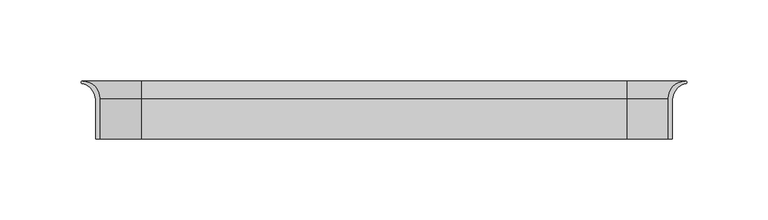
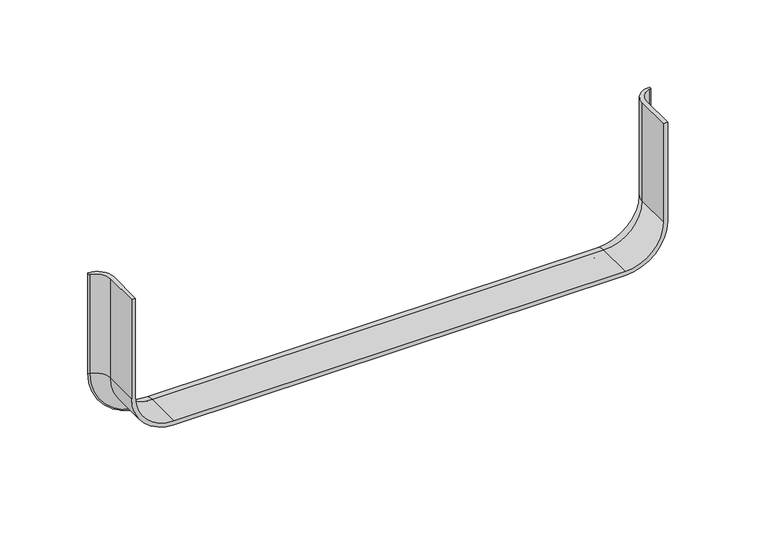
"""IFC4 building model written with IfcOpenShell, lengths in millimetres: cable carrier fitting geometry, CCT_Hyperline_FBTR-TSP Раструб для оптического лотка : Раструб для оптического лотка."""

from ifc_helpers import new_model, si_unit, point, frame, origin, place, context, project, spatial, polyline, circle_curve, ellipse_curve, trimmed, source, transform, mapped, element, save
from ifc_brep_helpers import plane_surface, cylinder_surface, revolved_surface, advanced_brep


def cable_carrier_fitting_6c60c4c2(model_context):
    return source(origin(), model_context, "Body", "AdvancedBrep", [
        advanced_brep(
        [(-177.46, 4.416055, 50.0), (-177.46, -19.5, 50.0), (-174.8920157, -19.5, 50.0), (-174.8920157, 5.5, 50.0), (-185.4986174, 16.1066017, 50.0), (-185.4986174, 14.6066017, 50.0), (-177.46, 4.416055, -19.46), (-177.46, -19.5, -19.46), (-149.46, -19.5, -47.46), (149.46, -19.5, -47.46), (177.46, -19.5, -19.46), (177.46, -19.5, 50.0), (174.8920157, -19.5, 50.0), (174.8920157, -19.5, -19.46), (149.46, -19.5, -44.8920157), (-149.46, -19.5, -44.8920157), (-174.8920157, -19.5, -19.46), (-149.46, 4.416055, -47.46), (149.46, 4.416055, -47.46), (177.46, 4.416055, -19.46), (177.46, 4.416055, 50.0), (185.4986174, 14.6066017, 50.0), (185.4986174, 16.1066017, 50.0), (174.8920157, 5.5, 50.0), (-174.8920157, 5.5, -19.46), (-185.4986174, 16.1066017, -19.46), (-185.4986174, 14.6066017, -19.46), (-149.46, 16.1066017, -55.4986174), (-149.46, 5.5, -44.8920157), (-149.46, 14.6066017, -55.4986174), (149.46, 5.5, -44.8920157), (149.46, 16.1066017, -55.4986174), (149.46, 14.6066017, -55.4986174), (185.4986174, 16.1066017, -19.46), (174.8920157, 5.5, -19.46), (185.4986174, 14.6066017, -19.46)],
        [
            (0, 1),
            (1, 2),
            (2, 3),
            (3, 4, circle_curve(frame((-185.4986174, 5.5, 50.0), z_axis=(0.0, 0.0, 1.0), x_axis=(0.0, -1.0, 0.0)), 10.6066017)),
            (4, 5, circle_curve(frame((-185.4986174, 15.3566017, 50.0), z_axis=(0.0, 0.0, 1.0), x_axis=(0.0, -1.0, 0.0)), 0.75)),
            (5, 0, circle_curve(frame((-187.9385814, 4.416055, 50.0), z_axis=(0.0, 0.0, -1.0), x_axis=(0.0, -1.0, 0.0)), 10.4785814)),
            (0, 6),
            (6, 7),
            (7, 1),
            (7, 8, circle_curve(frame((-149.46, -19.5, -19.46), z_axis=(0.0, -1.0, 0.0), x_axis=(-1.0, 0.0, 0.0)), 28.0)),
            (8, 9),
            (9, 10, circle_curve(frame((149.46, -19.5, -19.46), z_axis=(0.0, -1.0, 0.0), x_axis=(0.0, 0.0, -1.0)), 28.0)),
            (10, 11),
            (11, 12),
            (12, 13),
            (13, 14, circle_curve(frame((149.46, -19.5, -19.46), z_axis=(0.0, 1.0, 0.0), x_axis=(0.0, 0.0, -1.0)), 25.4320156)),
            (14, 15),
            (15, 16, circle_curve(frame((-149.46, -19.5, -19.46), z_axis=(0.0, 1.0, 0.0), x_axis=(-1.0, 0.0, 0.0)), 25.4320156)),
            (16, 2),
            (6, 17, circle_curve(frame((-149.46, 4.416055, -19.46), z_axis=(0.0, -1.0, 0.0), x_axis=(-1.0, 0.0, 0.0)), 28.0)),
            (17, 8),
            (17, 18),
            (18, 9),
            (18, 19, circle_curve(frame((149.46, 4.416055, -19.46), z_axis=(0.0, -1.0, 0.0), x_axis=(0.0, 0.0, -1.0)), 28.0)),
            (19, 10),
            (20, 21, circle_curve(frame((187.9385814, 4.416055, 50.0), z_axis=(0.0, 0.0, -1.0), x_axis=(0.0, -1.0, 0.0)), 10.4785814)),
            (21, 22, circle_curve(frame((185.4986174, 15.3566017, 50.0), z_axis=(0.0, 0.0, 1.0), x_axis=(0.0, -1.0, 0.0)), 0.75)),
            (22, 23, circle_curve(frame((185.4986174, 5.5, 50.0), z_axis=(0.0, 0.0, 1.0), x_axis=(0.0, -1.0, 0.0)), 10.6066017)),
            (23, 12),
            (11, 20),
            (19, 20),
            (3, 24),
            (24, 25, circle_curve(frame((-185.4986174, 5.5, -19.46), z_axis=(0.0, 0.0, 1.0), x_axis=(0.0, -1.0, 0.0)), 10.6066017)),
            (25, 4),
            (25, 26, circle_curve(frame((-185.4986174, 15.3566017, -19.46), z_axis=(0.0, 0.0, 1.0), x_axis=(0.0, -1.0, 0.0)), 0.75)),
            (26, 5),
            (26, 6, circle_curve(frame((-187.9385814, 4.416055, -19.46), z_axis=(0.0, 0.0, -1.0), x_axis=(0.0, -1.0, 0.0)), 10.4785814)),
            (27, 25, circle_curve(frame((-149.46, 16.1066017, -19.46), z_axis=(0.0, 1.0, 0.0), x_axis=(-1.0, 0.0, 0.0)), 36.0386174)),
            (24, 28, circle_curve(frame((-149.46, 5.5, -19.46), z_axis=(0.0, -1.0, 0.0), x_axis=(-1.0, 0.0, 0.0)), 25.4320156)),
            (28, 27, circle_curve(frame((-149.46, 5.5, -55.4986174), z_axis=(-1.0, 0.0, 0.0), x_axis=(0.0, -1.0, 0.0)), 10.6066017)),
            (29, 26, circle_curve(frame((-149.46, 14.6066017, -19.46), z_axis=(0.0, 1.0, 0.0), x_axis=(-1.0, 0.0, 0.0)), 36.0386174)),
            (27, 29, circle_curve(frame((-149.46, 15.3566017, -55.4986174), z_axis=(-1.0, 0.0, 0.0), x_axis=(0.0, -1.0, 0.0)), 0.75)),
            (29, 17, circle_curve(frame((-149.46, 4.416055, -57.9385814), z_axis=(1.0, 0.0, 0.0), x_axis=(0.0, -1.0, 0.0)), 10.4785814)),
            (28, 30),
            (30, 31, circle_curve(frame((149.46, 5.5, -55.4986174), z_axis=(-1.0, 0.0, 0.0), x_axis=(0.0, -1.0, 0.0)), 10.6066017)),
            (31, 27),
            (31, 32, circle_curve(frame((149.46, 15.3566017, -55.4986174), z_axis=(-1.0, 0.0, 0.0), x_axis=(0.0, -1.0, 0.0)), 0.75)),
            (32, 29),
            (32, 18, circle_curve(frame((149.46, 4.416055, -57.9385814), z_axis=(1.0, 0.0, 0.0), x_axis=(0.0, -1.0, 0.0)), 10.4785814)),
            (33, 31, circle_curve(frame((149.46, 16.1066017, -19.46), z_axis=(0.0, 1.0, 0.0), x_axis=(0.0, 0.0, -1.0)), 36.0386174)),
            (30, 34, circle_curve(frame((149.46, 5.5, -19.46), z_axis=(0.0, -1.0, 0.0), x_axis=(0.0, 0.0, -1.0)), 25.4320156)),
            (34, 33, circle_curve(frame((185.4986174, 5.5, -19.46), z_axis=(0.0, 0.0, -1.0), x_axis=(0.0, -1.0, 0.0)), 10.6066017)),
            (35, 32, circle_curve(frame((149.46, 14.6066017, -19.46), z_axis=(0.0, 1.0, 0.0), x_axis=(0.0, 0.0, -1.0)), 36.0386174)),
            (33, 35, circle_curve(frame((185.4986174, 15.3566017, -19.46), z_axis=(0.0, 0.0, -1.0), x_axis=(0.0, -1.0, 0.0)), 0.75)),
            (35, 19, circle_curve(frame((187.9385814, 4.416055, -19.46), z_axis=(0.0, 0.0, 1.0), x_axis=(0.0, -1.0, 0.0)), 10.4785814)),
            (34, 23),
            (22, 33),
            (21, 35),
            (16, 24),
            (15, 28),
            (14, 30),
            (13, 34),
        ],
        [
            plane_surface(frame((-177.46, 0.5, 50.0), z_axis=(0.0, 0.0, 1.0), x_axis=(0.0, -1.0, 0.0))),
            plane_surface(frame((-177.46, 4.416055, 50.0), z_axis=(-1.0, 0.0, 0.0), x_axis=(0.0, 0.0, -1.0))),
            plane_surface(frame((-177.46, -19.5, 50.0), z_axis=(0.0, -1.0, 0.0), x_axis=(0.0, 0.0, -1.0))),
            cylinder_surface(frame((-149.46, 0.5, -19.46), z_axis=(0.0, -1.0, 0.0), x_axis=(-1.0, 0.0, 0.0)), 28.0),
            plane_surface(frame((-149.46, 4.416055, -47.46), z_axis=(0.0, 0.0, -1.0), x_axis=(1.0, 0.0, 0.0))),
            cylinder_surface(frame((149.46, 0.5, -19.46), z_axis=(0.0, -1.0, 0.0), x_axis=(0.0, 0.0, -1.0)), 28.0),
            plane_surface(frame((177.46, 0.5, 50.0), z_axis=(0.0, 0.0, 1.0), x_axis=(0.0, -1.0, 0.0))),
            plane_surface(frame((177.46, 4.416055, -19.46), z_axis=(1.0, 0.0, 0.0), x_axis=(0.0, 0.0, 1.0))),
            cylinder_surface(frame((-185.4986174, 5.5, 50.0), z_axis=(0.0, 0.0, 1.0), x_axis=(0.0, -1.0, 0.0)), 10.6066017),
            cylinder_surface(frame((-185.4986174, 15.3566017, 50.0), z_axis=(0.0, 0.0, 1.0), x_axis=(0.0, -1.0, 0.0)), 0.75),
            revolved_surface(polyline([(-187.9385814, -6.062526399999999, -19.460000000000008), (-187.9385814, -6.062526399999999, 50.0)]), (-187.9385814, 4.416055, 50.0), (0.0, 0.0, -1.0)),
            revolved_surface(trimmed(ellipse_curve(frame((-185.4986174, 5.5, -19.46), z_axis=(0.0, 0.0, 1.0), x_axis=(0.0, -1.0, 0.0)), 10.6066017, 10.6066017), [point((-174.8920157, 5.5, -19.46))], [point((-185.4986174, 16.1066017, -19.46))], True, "CARTESIAN"), (-149.46, 0.5, -19.46), (0.0, -1.0, 0.0)),
            revolved_surface(trimmed(ellipse_curve(frame((-185.4986174, 15.3566017, -19.46), z_axis=(0.0, 0.0, 1.0), x_axis=(0.0, -1.0, 0.0)), 0.75, 0.75), [point((-185.4986174, 16.1066017, -19.46))], [point((-185.4986174, 14.6066017, -19.46))], True, "CARTESIAN"), (-149.46, 0.5, -19.46), (0.0, -1.0, 0.0)),
            revolved_surface(trimmed(ellipse_curve(frame((-187.9385814, 4.416055, -19.46), z_axis=(0.0, 0.0, -1.0), x_axis=(0.0, -1.0, 0.0)), 10.4785814, 10.4785814), [point((-185.4986174, 14.6066017, -19.46))], [point((-177.46, 4.416055, -19.46))], True, "CARTESIAN"), (-149.46, 0.5, -19.46), (0.0, -1.0, 0.0)),
            cylinder_surface(frame((-149.46, 5.5, -55.4986174), z_axis=(-1.0, 0.0, 0.0), x_axis=(0.0, -1.0, 0.0)), 10.6066017),
            cylinder_surface(frame((-149.46, 15.3566017, -55.4986174), z_axis=(-1.0, 0.0, 0.0), x_axis=(0.0, -1.0, 0.0)), 0.75),
            revolved_surface(polyline([(149.46, -6.062526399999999, -57.9385814), (-149.46, -6.062526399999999, -57.9385814)]), (-149.46, 4.416055, -57.9385814), (1.0, 0.0, 0.0)),
            revolved_surface(trimmed(ellipse_curve(frame((149.46, 5.5, -55.4986174), z_axis=(-1.0, 0.0, 0.0), x_axis=(0.0, -1.0, 0.0)), 10.6066017, 10.6066017), [point((149.46, 5.5, -44.8920157))], [point((149.46, 16.1066017, -55.4986174))], True, "CARTESIAN"), (149.46, 0.5, -19.46), (0.0, -1.0, 0.0)),
            revolved_surface(trimmed(ellipse_curve(frame((149.46, 15.3566017, -55.4986174), z_axis=(-1.0, 0.0, 0.0), x_axis=(0.0, -1.0, 0.0)), 0.75, 0.75), [point((149.46, 16.1066017, -55.4986174))], [point((149.46, 14.6066017, -55.4986174))], True, "CARTESIAN"), (149.46, 0.5, -19.46), (0.0, -1.0, 0.0)),
            revolved_surface(trimmed(ellipse_curve(frame((149.46, 4.416055, -57.9385814), z_axis=(1.0, 0.0, 0.0), x_axis=(0.0, -1.0, 0.0)), 10.4785814, 10.4785814), [point((149.46, 14.6066017, -55.4986174))], [point((149.46, 4.416055, -47.46))], True, "CARTESIAN"), (149.46, 0.5, -19.46), (0.0, -1.0, 0.0)),
            cylinder_surface(frame((185.4986174, 5.5, -19.46), z_axis=(0.0, 0.0, -1.0), x_axis=(0.0, -1.0, 0.0)), 10.6066017),
            cylinder_surface(frame((185.4986174, 15.3566017, -19.46), z_axis=(0.0, 0.0, -1.0), x_axis=(0.0, -1.0, 0.0)), 0.75),
            revolved_surface(polyline([(187.9385814, -6.062526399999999, 50.00000000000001), (187.9385814, -6.062526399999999, -19.46)]), (187.9385814, 4.416055, -19.46), (0.0, 0.0, 1.0)),
            plane_surface(frame((-174.8920157, -19.5, 50.0), z_axis=(1.0, 0.0, 0.0), x_axis=(0.0, 0.0, -1.0))),
            revolved_surface(polyline([(-174.8920156, -19.5, -19.46), (-174.8920156, 5.5, -19.46)]), (-149.46, 0.5, -19.46), (0.0, -1.0, 0.0)),
            plane_surface(frame((-149.46, -19.5, -44.8920157), z_axis=(0.0, 0.0, 1.0), x_axis=(1.0, 0.0, 0.0))),
            revolved_surface(polyline([(149.46, -19.5, -44.8920156), (149.46, 5.5, -44.8920156)]), (149.46, 0.5, -19.46), (0.0, -1.0, 0.0)),
            plane_surface(frame((174.8920157, -19.5, -19.46), z_axis=(-1.0, 0.0, 0.0), x_axis=(0.0, 0.0, 1.0))),
        ],
        [
            (0, [[1, 2, 3, 4, 5, 6]]),
            (1, [[-1, 7, 8, 9]]),
            (2, [[-2, -9, 10, 11, 12, 13, 14, 15, 16, 17, 18, 19]]),
            (3, [[-10, -8, 20, 21]]),
            (4, [[-21, 22, 23, -11]]),
            (5, [[-12, -23, 24, 25]]),
            (6, [[26, 27, 28, 29, -14, 30]]),
            (7, [[-25, 31, -30, -13]]),
            (8, [[-4, 32, 33, 34]]),
            (9, [[-5, -34, 35, 36]]),
            (10, [[-6, -36, 37, -7]]),
            (11, [[38, -33, 39, 40]]),
            (12, [[41, -35, -38, 42]]),
            (13, [[-20, -37, -41, 43]]),
            (14, [[-40, 44, 45, 46]]),
            (15, [[-42, -46, 47, 48]]),
            (16, [[-43, -48, 49, -22]]),
            (17, [[50, -45, 51, 52]]),
            (18, [[53, -47, -50, 54]]),
            (19, [[-24, -49, -53, 55]]),
            (20, [[-52, 56, -28, 57]]),
            (21, [[-54, -57, -27, 58]]),
            (22, [[-55, -58, -26, -31]]),
            (23, [[-3, -19, 59, -32]]),
            (24, [[-39, -59, -18, 60]]),
            (25, [[-60, -17, 61, -44]]),
            (26, [[-51, -61, -16, 62]]),
            (27, [[-62, -15, -29, -56]]),
        ],
    ),
    ])


if __name__ == "__main__":
    model = new_model("IFC4")
    model_context = context("Model", 3, world=origin())
    ifc_project = project(units=[si_unit("LENGTHUNIT", "METRE", prefix="MILLI")], contexts=[model_context])
    site = spatial("IfcSite", under=ifc_project)
    building = spatial("IfcBuilding", under=site)
    placement = place(None, origin())
    cable_carrier_fitting_shape = cable_carrier_fitting_6c60c4c2(model_context)
    element("IfcCableCarrierFitting", 1, ObjectType="CCT_Hyperline_FBTR-TSP Раструб для оптического лотка : Раструб для оптического лотка", at=placement, inside=building, context=model_context, shape_type="MappedRepresentation", body=[
        mapped(cable_carrier_fitting_shape, transform((0.0, 0.0, 0.0), x_axis=(1.0, 0.0, 0.0), y_axis=(0.0, 1.0, 0.0), z_axis=(0.0, 0.0, 1.0))),
    ])
    save(model, "model.ifc")
